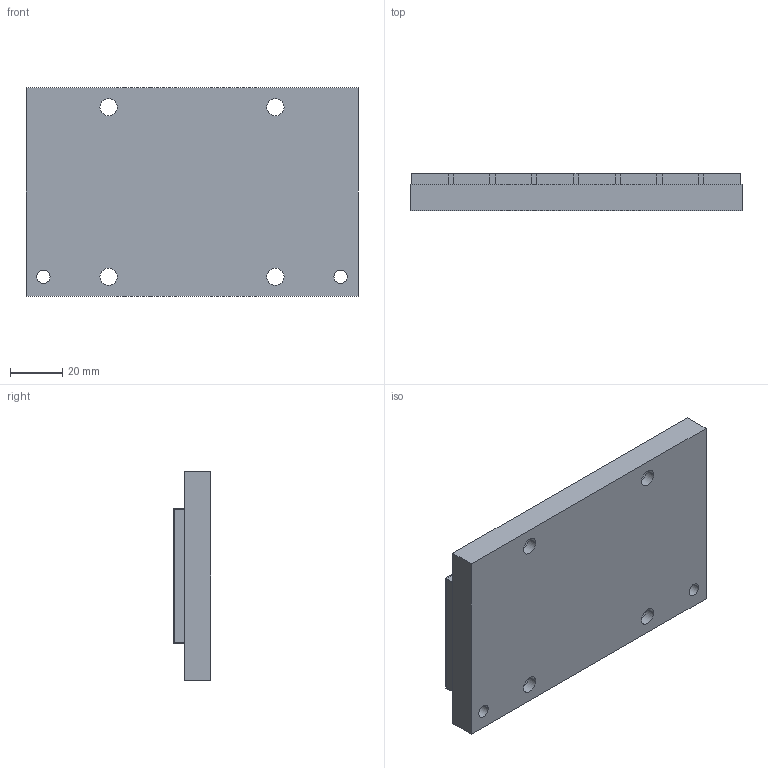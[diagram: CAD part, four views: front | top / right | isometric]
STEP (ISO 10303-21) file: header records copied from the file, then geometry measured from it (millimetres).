
FILE_DESCRIPTION((''),'2;1');
FILE_NAME('MC050-0128-WC','2007-01-14T',('saurabh.singhal'),(''),'PRO/ENGINEER BY PARAMETRIC TECHNOLOGY CORPORATION, 2005450','PRO/ENGINEER BY PARAMETRIC TECHNOLOGY CORPORATION, 2005450','');
FILE_SCHEMA(('CONFIG_CONTROL_DESIGN'));
Length unit declared in the file: millimetre
Products named in the file (1): MC050-0128-WC
Bounding box: 127.3 x 14.4 x 80 mm (x, y, z)
Volume: 123484.2 mm3; surface area: 45009.1 mm2
Topology: 1 solids, 1 shells, 78 faces, 192 edges, 128 vertices
Faces by surface type: plane 58, cylinder 20
Entity records: 2362 total; most frequent: CARTESIAN_POINT 398, DIRECTION 388, ORIENTED_EDGE 384, EDGE_CURVE 192, VECTOR 152, LINE 152, VERTEX_POINT 128, AXIS2_PLACEMENT_3D 118
